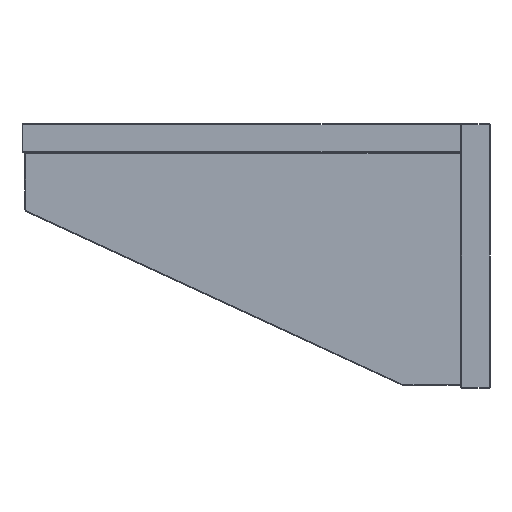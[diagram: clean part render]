
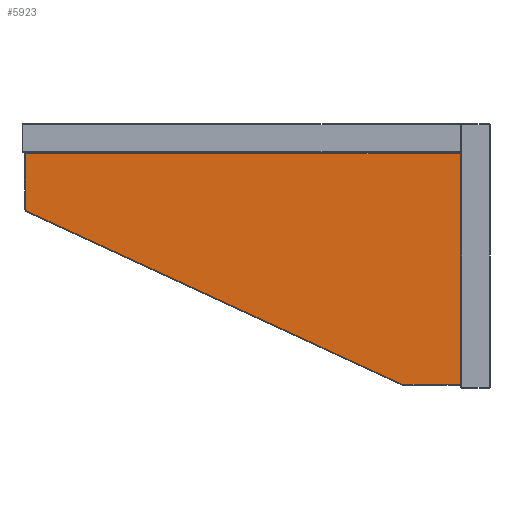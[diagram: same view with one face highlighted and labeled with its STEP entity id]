
A CAD part, left-side view. The second image highlights one B-rep face of the part: STEP entity #5923.
In plain terms, the highlighted planar face has unit normal (-1, 0, 0).
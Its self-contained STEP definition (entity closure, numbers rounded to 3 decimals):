
#120 = EDGE_CURVE ( 'NONE', #7561, #4677, #6675, .T. ) ;
#199 = CARTESIAN_POINT ( 'NONE',  ( -66.575, 0.977, 35.5 ) ) ;
#776 = ORIENTED_EDGE ( 'NONE', *, *, #5314, .T. ) ;
#900 = CARTESIAN_POINT ( 'NONE',  ( -66.575, 150.677, 35.5 ) ) ;
#905 = DIRECTION ( 'NONE',  ( 0., -1., 0. ) ) ;
#961 = EDGE_CURVE ( 'NONE', #2471, #7561, #3274, .T. ) ;
#2112 = VECTOR ( 'NONE', #3383, 1000. ) ;
#2447 = FACE_OUTER_BOUND ( 'NONE', #10129, .T. ) ;
#2471 = VERTEX_POINT ( 'NONE', #7861 ) ;
#2505 = ORIENTED_EDGE ( 'NONE', *, *, #9661, .T. ) ;
#3274 = LINE ( 'NONE', #8430, #2112 ) ;
#3374 = DIRECTION ( 'NONE',  ( 0., 0., -1. ) ) ;
#3383 = DIRECTION ( 'NONE',  ( 0., -0.908, -0.419 ) ) ;
#3842 = CARTESIAN_POINT ( 'NONE',  ( -66.575, 1.277, 35.5 ) ) ;
#4346 = CARTESIAN_POINT ( 'NONE',  ( -66.575, 20.911, -44.2 ) ) ;
#4674 = CARTESIAN_POINT ( 'NONE',  ( -66.575, 0.977, 35.2 ) ) ;
#4677 = VERTEX_POINT ( 'NONE', #6734 ) ;
#5314 = EDGE_CURVE ( 'NONE', #6566, #2471, #8422, .T. ) ;
#5317 = CARTESIAN_POINT ( 'NONE',  ( -66.575, 1.277, 35.2 ) ) ;
#5362 = ORIENTED_EDGE ( 'NONE', *, *, #961, .T. ) ;
#5558 = EDGE_CURVE ( 'NONE', #8595, #6566, #10634, .T. ) ;
#5923 = ADVANCED_FACE ( 'NONE', ( #2447 ), #10021, .T. ) ;
#6379 = VECTOR ( 'NONE', #6538, 1000. ) ;
#6538 = DIRECTION ( 'NONE',  ( 0., 1., 0. ) ) ;
#6566 = VERTEX_POINT ( 'NONE', #6988 ) ;
#6675 = LINE ( 'NONE', #10069, #8789 ) ;
#6734 = CARTESIAN_POINT ( 'NONE',  ( -66.575, 1.277, -44.2 ) ) ;
#6922 = AXIS2_PLACEMENT_3D ( 'NONE', #199, #10190, #8336 ) ;
#6988 = CARTESIAN_POINT ( 'NONE',  ( -66.575, 150.677, 35.2 ) ) ;
#7199 = DIRECTION ( 'NONE',  ( 0., 0., 1. ) ) ;
#7561 = VERTEX_POINT ( 'NONE', #4346 ) ;
#7861 = CARTESIAN_POINT ( 'NONE',  ( -66.575, 150.677, 15.692 ) ) ;
#8024 = LINE ( 'NONE', #3842, #9286 ) ;
#8336 = DIRECTION ( 'NONE',  ( 0., 0., 1. ) ) ;
#8422 = LINE ( 'NONE', #900, #8469 ) ;
#8430 = CARTESIAN_POINT ( 'NONE',  ( -66.575, 34.802, -37.789 ) ) ;
#8469 = VECTOR ( 'NONE', #3374, 1000. ) ;
#8595 = VERTEX_POINT ( 'NONE', #5317 ) ;
#8789 = VECTOR ( 'NONE', #905, 1000. ) ;
#9286 = VECTOR ( 'NONE', #7199, 1000. ) ;
#9661 = EDGE_CURVE ( 'NONE', #4677, #8595, #8024, .T. ) ;
#10021 = PLANE ( 'NONE',  #6922 ) ;
#10069 = CARTESIAN_POINT ( 'NONE',  ( -66.575, 0.977, -44.2 ) ) ;
#10129 = EDGE_LOOP ( 'NONE', ( #10649, #2505, #10718, #776, #5362 ) ) ;
#10190 = DIRECTION ( 'NONE',  ( -1., 0., 0. ) ) ;
#10634 = LINE ( 'NONE', #4674, #6379 ) ;
#10649 = ORIENTED_EDGE ( 'NONE', *, *, #120, .T. ) ;
#10718 = ORIENTED_EDGE ( 'NONE', *, *, #5558, .T. ) ;
